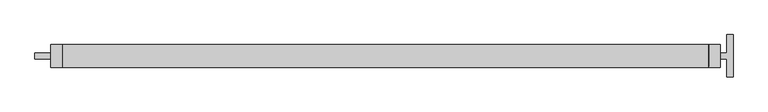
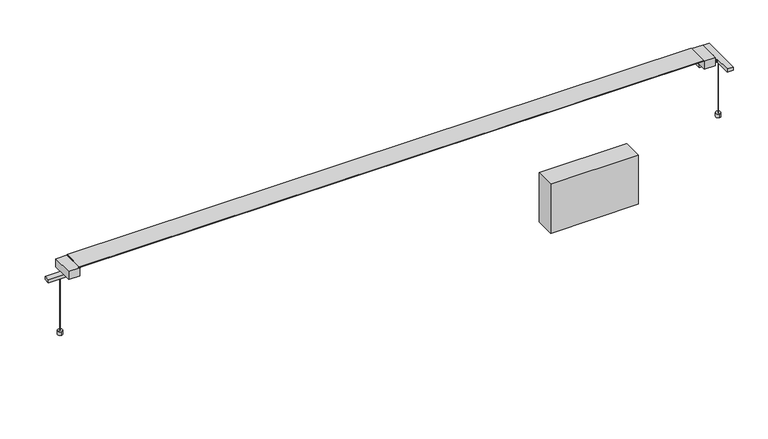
"""IFC4 building model written with IfcOpenShell, lengths in millimetres: light fixture geometry, Fabbian.Pivot F39 (F39 A01A 01,F39 A01A 21,F39 A01A 76,F39 A02A 01,F39 A02A 21,F39 A02A 76) : F39 A01A 01."""

from ifc_helpers import new_model, si_unit, point, frame, frame_2d, origin, origin_with_axes, place, context, project, spatial, polyline, circle_curve, trimmed, segment, composite_curve, outline, extrude, source, transform, mapped, element, save


def light_fixture_e4f0a693(model_context):
    return source(origin(), model_context, "Body", "SweptSolid", [
        extrude(outline(composite_curve([segment(trimmed(circle_curve(frame_2d((833.8362553, 0.0)), 0.4949808), [point((834.3312361, 0.0))], [point((833.3412745, 0.0))], False, "CARTESIAN"), True, "CONTINUOUS"), segment(trimmed(circle_curve(frame_2d((833.8362553, 0.0)), 0.4949808), [point((833.3412745, 0.0))], [point((834.3312361, 0.0))], False, "CARTESIAN"), True, "CONTINUOUS")], self_intersect=False)), origin_with_axes(), (0.0, 0.0, 1.0), 151.6242394),
        extrude(outline(composite_curve([segment(trimmed(circle_curve(frame_2d((-815.8132834, 0.0)), 0.4949808), [point((-816.3082642, 0.0))], [point((-815.3183026, 0.0))], False, "CARTESIAN"), True, "CONTINUOUS"), segment(trimmed(circle_curve(frame_2d((-815.8132834, 0.0)), 0.4949808), [point((-815.3183026, 0.0))], [point((-816.3082642, 0.0))], False, "CARTESIAN"), True, "CONTINUOUS")], self_intersect=False)), origin_with_axes(), (0.0, 0.0, 1.0), 151.6242394),
        extrude(outline(polyline([(619.1350388, -24.9666442), (399.1348055, -24.9666442), (399.1348055, 25.0334567), (619.1350388, 25.0334567), (619.1350388, -24.9666442)])), frame((0.0, 0.0, -142.875), z_axis=(0.0, 0.0, 1.0), x_axis=(1.0, 0.0, 0.0)), (0.0, 0.0, 1.0), 130.175),
        extrude(outline(polyline([(0.4107254, 159.893756), (0.4107254, 160.681594), (-0.4107259, 160.681594), (-0.4107259, 159.893756), (-25.5497693, 181.0787506), (26.3879175, 181.0787506), (0.4107254, 159.893756)])), frame((-782.3132834, 0.0, 0.0), z_axis=(1.0, 0.0, 0.0), x_axis=(0.0, 1.0, 0.0)), (0.0, 0.0, 1.0), 1564.6265668),
        extrude(outline(polyline([(-782.3132834, -27.7285043), (-810.5140956, -27.7285043), (-810.5140956, 27.7953166), (-782.3132834, 27.7953166), (-782.3132834, -27.7285043)])), frame((0.0, 0.0, 159.6242394), z_axis=(0.0, 0.0, 1.0), x_axis=(1.0, 0.0, 0.0)), (0.0, 0.0, 1.0), 20.8761838),
        extrude(outline(polyline([(782.3132834, -27.7285042), (782.3132834, 27.7953167), (810.5140956, 27.7953167), (810.5140956, -27.7285042), (782.3132834, -27.7285042)])), frame((0.0, 0.0, 159.6242394), z_axis=(0.0, 0.0, 1.0), x_axis=(1.0, 0.0, 0.0)), (0.0, 0.0, 1.0), 20.8761838),
        extrude(outline(polyline([(0.0, 0.8214513), (1564.6265668, 0.8214513), (1564.6265668, 0.0), (0.0, 0.0), (0.0, 0.8214513)])), frame((-782.3132834, -0.4107259, 159.893756), z_axis=(-5.7155291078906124e-11, 0.0, 1.0), x_axis=(1.0, 0.0, 5.7155291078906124e-11)), (0.0, 0.0, 1.0), 0.787838),
        extrude(outline(polyline([(781.7488887, 27.7780006), (781.7488887, -27.7779986), (-782.3132834, -27.7779986), (-782.3132834, 27.7780006), (781.7488887, 27.7780006)])), frame((0.0, 0.0, 181.0787506), z_axis=(0.0, 0.0, 1.0), x_axis=(1.0, 0.0, 0.0)), (0.0, 0.0, 1.0), 1.1514277),
        extrude(outline(composite_curve([segment(trimmed(circle_curve(frame_2d((833.836284, 0.4556113)), 5.8155806), [point((834.6639767, -5.3007681))], [point((833.0085914, 6.2119906))], False, "CARTESIAN"), True, "CONTINUOUS"), segment(trimmed(circle_curve(frame_2d((833.836284, 0.4556113)), 5.8155806), [point((833.0085914, 6.2119906))], [point((834.6639767, -5.3007681))], False, "CARTESIAN"), True, "CONTINUOUS")], self_intersect=False)), origin_with_axes(), (0.0, 0.0, 1.0), 9.6582083),
        extrude(outline(composite_curve([segment(trimmed(circle_curve(frame_2d((-815.8133121, 0.4556113)), 5.8155806), [point((-816.6410047, -5.3007681))], [point((-814.9856195, 6.2119906))], False, "CARTESIAN"), True, "CONTINUOUS"), segment(trimmed(circle_curve(frame_2d((-815.8133121, 0.4556113)), 5.8155806), [point((-814.9856195, 6.2119906))], [point((-816.6410047, -5.3007681))], False, "CARTESIAN"), True, "CONTINUOUS")], self_intersect=False)), origin_with_axes(), (0.0, 0.0, 1.0), 9.6582083),
        extrude(outline(composite_curve([segment(polyline([(826.3132834, 51.5), (841.3132834, 51.5), (841.3132834, -51.5), (826.3132834, -51.5), (826.3132834, -9.5)]), True, "CONTINUOUS"), segment(trimmed(circle_curve(frame_2d((824.3132834, -9.5)), 2.0), [point((826.3132834, -9.5))], [point((824.3132834, -7.5))], True, "CARTESIAN"), True, "CONTINUOUS"), segment(polyline([(824.3132834, -7.5), (782.3132834, -7.5), (782.3132834, 7.5), (824.3132834, 7.5)]), True, "CONTINUOUS"), segment(trimmed(circle_curve(frame_2d((824.3132834, 9.5)), 2.0), [point((824.3132834, 7.5))], [point((826.3132834, 9.5))], True, "CARTESIAN"), True, "CONTINUOUS"), segment(polyline([(826.3132834, 9.5), (826.3132834, 51.5)]), True, "CONTINUOUS")], self_intersect=False)), frame((0.0, 0.0, 151.6242394), z_axis=(0.0, 0.0, 1.0), x_axis=(1.0, 0.0, 0.0)), (0.0, 0.0, 1.0), 8.0),
        extrude(outline(polyline([(-782.3132834, 7.5334062), (-782.3132834, -7.4665938), (-849.3132834, -7.4665938), (-849.3132834, 7.5334062), (-782.3132834, 7.5334062)])), frame((0.0, 0.0, 151.6242394), z_axis=(0.0, 0.0, 1.0), x_axis=(1.0, 0.0, 0.0)), (0.0, 0.0, 1.0), 8.0),
    ])


if __name__ == "__main__":
    model = new_model("IFC4")
    model_context = context("Model", 3, world=origin())
    ifc_project = project(units=[si_unit("LENGTHUNIT", "METRE", prefix="MILLI")], contexts=[model_context])
    site = spatial("IfcSite", under=ifc_project)
    building = spatial("IfcBuilding", under=site)
    placement = place(None, origin())
    light_fixture_shape = light_fixture_e4f0a693(model_context)
    element("IfcLightFixture", 1, ObjectType="Fabbian.Pivot F39 (F39 A01A 01,F39 A01A 21,F39 A01A 76,F39 A02A 01,F39 A02A 21,F39 A02A 76) : F39 A01A 01", at=placement, inside=building, context=model_context, shape_type="MappedRepresentation", body=[
        mapped(light_fixture_shape, transform((0.0, 0.0, 0.0), x_axis=(1.0, 0.0, 0.0), y_axis=(0.0, 1.0, 0.0), z_axis=(0.0, 0.0, 1.0))),
    ])
    save(model, "model.ifc")
